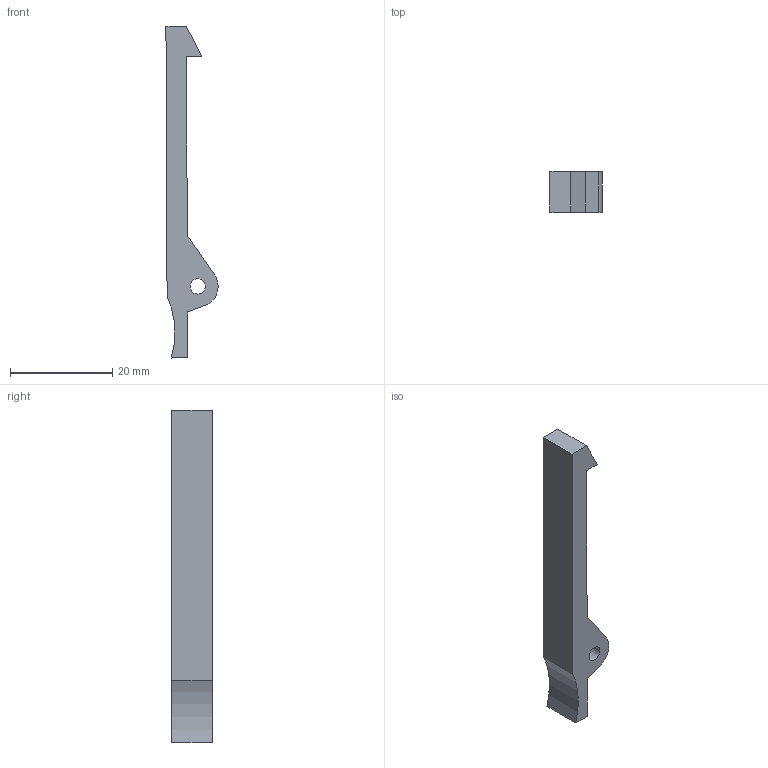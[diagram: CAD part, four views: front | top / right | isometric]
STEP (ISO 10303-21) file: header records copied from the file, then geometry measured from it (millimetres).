
FILE_DESCRIPTION(/* description */ (''),/* implementation_level */ '2;1');
FILE_NAME(/* name */ '/Users/robin/Downloads/Springloaded SMD Magazine Lever.step',/* time_stamp */ '2019-11-07T09:30:59+01:00',/* author */ (''),/* organization */ (''),/* preprocessor_version */ 'ST-DEVELOPER v18',/* originating_system */ 'Autodesk Translation Framework v8.9.1.1155',/* authorisation */ '');
FILE_SCHEMA (('AUTOMOTIVE_DESIGN { 1 0 10303 214 3 1 1 }'));
Length unit declared in the file: millimetre
Products named in the file (2): Strip Holder; Lever
Assembly tree (1 placements, depth 2):
  Strip Holder
    Lever
Bounding box: 10.21 x 8 x 65.01 mm (x, y, z)
Volume: 2389.6 mm3; surface area: 1874.1 mm2
Topology: 1 solids, 1 shells, 16 faces, 39 edges, 26 vertices
Faces by surface type: plane 12, cylinder 4
Full cylindrical faces by diameter (mm): 3 x1, 6 x1
Entity records: 535 total; most frequent: DIRECTION 85, CARTESIAN_POINT 84, ORIENTED_EDGE 78, EDGE_CURVE 39, LINE 31, VECTOR 31, AXIS2_PLACEMENT_3D 27, VERTEX_POINT 26
